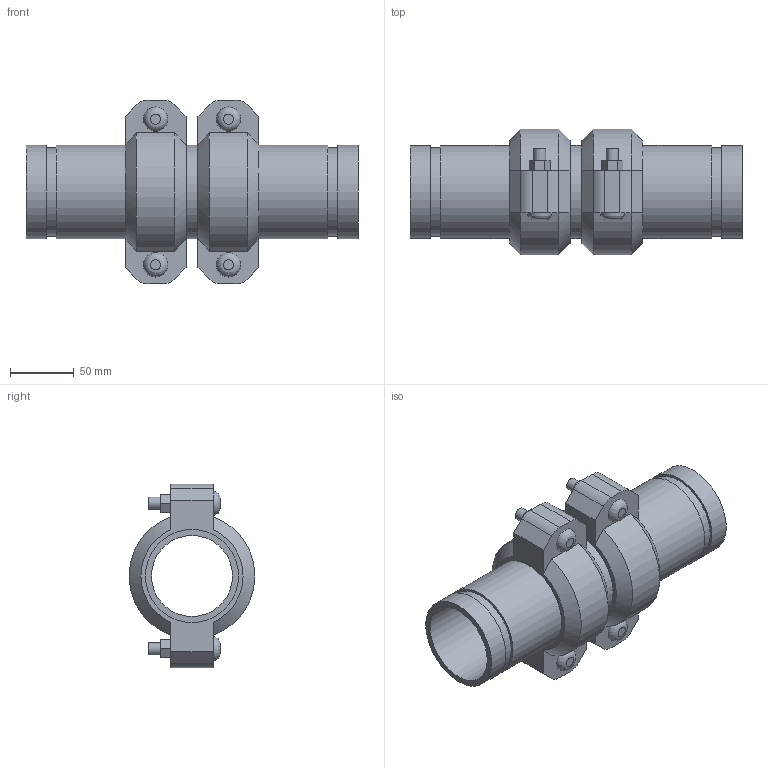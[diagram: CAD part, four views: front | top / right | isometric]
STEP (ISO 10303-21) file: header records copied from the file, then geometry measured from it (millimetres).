
FILE_DESCRIPTION(/* description */ ('VIC EXPANSION JOINT 2 COUPLINGS COMPRESSED STYLE 155 (OGS)','CAx-IF Rec.Pracs.---Representation and Presentation of Product Manufacturing Information (PMI)---4.0---2014-10-13'),/* implementation_level */ '2;1');
FILE_NAME(/* name */ 'C:\Users\kkamble\AppData\Roaming\Autodesk\ApplicationPlugins\Victaulic.Temp\A11\Victaulic_IPS_Expansion Joint_Compressed_2 Couplings_Style 155 (OGS)_2.5 (65).stp',/* time_stamp */ '2021-06-27T00:23:18+02:00',/* author */ ('kkamble'),/* organization */ ('Victaulic'),/* preprocessor_version */ 'ST-DEVELOPER v17.2',/* originating_system */ 'Autodesk Inventor 2019',/* authorisation */ '');
FILE_SCHEMA (('AP242_MANAGED_MODEL_BASED_3D_ENGINEERING_MIM_LF { 1 0 10303 442 1 1 4 }'));
Length unit declared in the file: inch
Products named in the file (4): 155-02.5; Nipple-02.5; Nipple-02.5_1; 075-02.5
Assembly tree (5 placements, depth 2):
  155-02.5
    Nipple-02.5  x2
    Nipple-02.5_1
    075-02.5  x2
Bounding box: 260.35 x 98.22 x 144.27 mm (x, y, z)
Volume: 674691.6 mm3; surface area: 207799.6 mm2
Topology: 5 solids, 9 shells, 142 faces, 344 edges, 244 vertices
Faces by surface type: plane 86, cylinder 44, cone 8, bspline 4
Full cylindrical faces by diameter (mm): 9.525 x8, 11.43 x4, 63.475 x3, 69.088 x6, 73.025 x11
Entity records: 2659 total; most frequent: CARTESIAN_POINT 475, DIRECTION 435, ORIENTED_EDGE 374, EDGE_CURVE 187, AXIS2_PLACEMENT_3D 172, VERTEX_POINT 134, EDGE_LOOP 101, LINE 91
